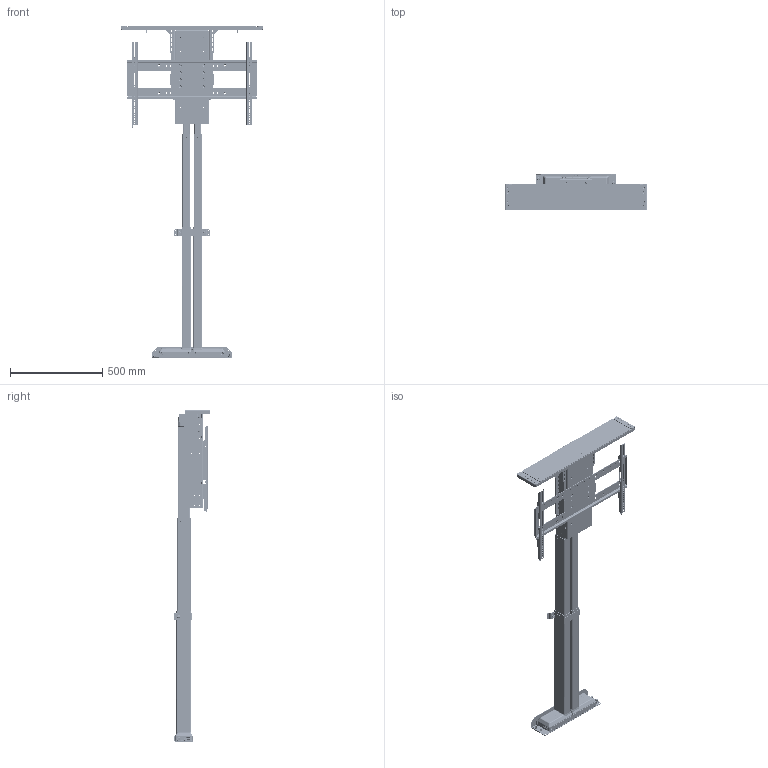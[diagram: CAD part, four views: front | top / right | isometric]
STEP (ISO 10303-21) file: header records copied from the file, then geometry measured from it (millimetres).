
FILE_DESCRIPTION(/* description */ ('STEP AP242','CAx-IF Rec.Pracs.---Representation and Presentation of Product Manufacturing Information (PMI)---4.0---2014-10-13','CAx-IF Rec.Pracs.---3D Tessellated Geometry---0.4---2014-09-14','2;1'),/* implementation_level */ '2;1');
FILE_NAME(/* name */ '65523baa9b98ac61b84e0b94',/* time_stamp */ '2023-11-13T15:07:26Z',/* author */ (''),/* organization */ (''),/* preprocessor_version */ 'ST-DEVELOPER v19.4',/* originating_system */ ' ',/* authorisation */ ' ');
FILE_SCHEMA (('AP242_MANAGED_MODEL_BASED_3D_ENGINEERING_MIM_LF { 1 0 10303 442 1 1 4 }'));
Products named in the file (85): DL-65s (HD); ULS-NX-029 - HD Column Clamp; Hex socket countersunk head screw M6x1 x 12; Socket button head screw M6x1 x 12; WDS8151-215; Socket button head screw M6x1 x 16; L65 PS Adapter; ULS-NX-032 - HD Quick Release LC Mount; Lift Column H <2>; L45 LC Inner Profile; L45 LC Motor Housing; L45 LC Middle Profile; Lift Column H <1>; SBP & VMB <1>; ULS-NX-017 - UL SCREEN BACK PLATE; PZ Pan head screw M5x0.80 x 25; ULS-NX-118 - UL VMB WELDMENT <1>; VMB Washer; 90107A012; PEM BSO-632-10  ZI; ULS-NX-020 - UL SCREEN LOCK; ULS-NX-019 - UL LEVEL ADJUSTMENT PLATE; Socket button head cap screw #6-32 x 0.188; ULS-NX-018 - UL VERICAL MOUNTING BAR; ULS-NX-118 - UL VMB WELDMENT <2>; ULS-NX-030 - HD REAR SUPPORT w/ PEMs <1>; PEM FHS-M6-12  ; ULS-NX-030 - HD Rear Support; ULS-NX-031 - HD QUICK RELEASE BASE MOUNT w/ PEMS <1>; ULS-NX-031 - HD QUICK RELEASE BASE MOUNT; L-65 HD Lid Plate Assembly w/ Lid Supports <1>; ULS-NX-039 - ULS HD LID SUPPORT w/ PEMs <1>; PEM CLS-M6-00  ; ULS-NX-039 -- ULS HD LID SUPPORT; ULS-NX-039 - ULS HD LID SUPPORT w/ PEMs <2>; L-65 HD Lid Plate Assembly w/ Lid Adapter <1>; PEM FH-M6-18  ZI; PEM S-M6-1  ZI; Hex socket countersunk head screw M6x1 x 10; Plain washer extra large grade C M6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
Assembly tree (248 placements, depth 5):
  DL-65s (HD)
    ULS-NX-029 - HD Column Clamp
    Hex socket countersunk head screw M6x1 x 12  x17
    Socket button head screw M6x1 x 12  x8
    WDS8151-215  x6
    Socket button head screw M6x1 x 16  x4
    L65 PS Adapter
    ULS-NX-032 - HD Quick Release LC Mount
    Lift Column H <2>
      L45 LC Inner Profile
      L45 LC Motor Housing
      L45 LC Middle Profile
    Lift Column H <1>
      L45 LC Middle Profile
      L45 LC Motor Housing
      L45 LC Inner Profile
    SBP & VMB <1>
      ULS-NX-017 - UL SCREEN BACK PLATE
      PZ Pan head screw M5x0.80 x 25  x2
      ULS-NX-118 - UL VMB WELDMENT <1>
        VMB Washer  x4
        90107A012  x2
        PEM BSO-632-10  ZI  x2
        ULS-NX-020 - UL SCREEN LOCK
        ULS-NX-019 - UL LEVEL ADJUSTMENT PLATE
        Socket button head cap screw #6-32 x 0.188  x2
        ULS-NX-018 - UL VERICAL MOUNTING BAR
      ULS-NX-118 - UL VMB WELDMENT <2>
        PEM BSO-632-10  ZI  x2
        ULS-NX-019 - UL LEVEL ADJUSTMENT PLATE
        VMB Washer  x4
        Socket button head cap screw #6-32 x 0.188  x2
        90107A012  x2
        ULS-NX-020 - UL SCREEN LOCK
        ULS-NX-018 - UL VERICAL MOUNTING BAR
    ULS-NX-030 - HD REAR SUPPORT w/ PEMs <1>
      PEM FHS-M6-12    x2
      ULS-NX-030 - HD Rear Support
    ULS-NX-031 - HD QUICK RELEASE BASE MOUNT w/ PEMS <1>
      PEM FHS-M6-12    x4
      ULS-NX-031 - HD QUICK RELEASE BASE MOUNT
    L-65 HD Lid Plate Assembly w/ Lid Supports <1>
      Hex socket countersunk head screw M6x1 x 12  x4
      ULS-NX-039 - ULS HD LID SUPPORT w/ PEMs <1>
        PEM CLS-M6-00    x2
        ULS-NX-039 -- ULS HD LID SUPPORT
      ULS-NX-039 - ULS HD LID SUPPORT w/ PEMs <2>
        PEM CLS-M6-00    x2
        ULS-NX-039 -- ULS HD LID SUPPORT
      L-65 HD Lid Plate Assembly w/ Lid Adapter <1>
        PEM FH-M6-18  ZI  x4
        PEM S-M6-1  ZI  x6
        Hex socket countersunk head screw M6x1 x 10  x4
        Plain washer extra large grade C M6  x4
        97069A106_Zinc-Plated Steel Spring Lock Washer  x4
        Hex thin nut grade A & B M6  x4
        L-85 TOP PLATE EXTENSION REV B (L85-LM-057)  x2
        NEX-LM-032 -- LID PIN GUIDE  x2
        L-85 TOP PLATE REV C (L85-LM-056)
        L85-LM-058 - Lid Adapter Plate Rev F <1>
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Bounding box: 768.1 x 198.85 x 1797.61 mm (x, y, z)
Volume: 17200478.1 mm3; surface area: 3134096.7 mm2
Topology: 232 solids, 232 shells, 12524 faces, 32600 edges, 20993 vertices
Faces by surface type: plane 7418, cylinder 3083, cone 1032, bspline 619, torus 314, sphere 58
Full cylindrical faces by diameter (mm): 1.194 x2, 1.208 x1, 1.473 x3, 1.552 x1, 1.575 x2, 1.6 x2, 1.956 x8, 2.235 x1, 2.642 x4, 2.794 x1, 3.048 x2, 3.175 x1, 3.505 x7, 3.683 x1, 4 x8, 4.496 x6, 4.6 x4, 4.75 x1, 4.917 x56, 5 x46, 5.026 x4, 5.08 x4, 5.277 x8, 5.3 x12, 5.385 x12, 5.41 x8, 5.6 x8, 5.944 x4, 5.994 x4, 6 x97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
Entity records: 141980 total; most frequent: CARTESIAN_POINT 36634, DIRECTION 20668, ORIENTED_EDGE 19886, EDGE_CURVE 9943, AXIS2_PLACEMENT_3D 7475, VERTEX_POINT 6706, LINE 5718, VECTOR 5718
